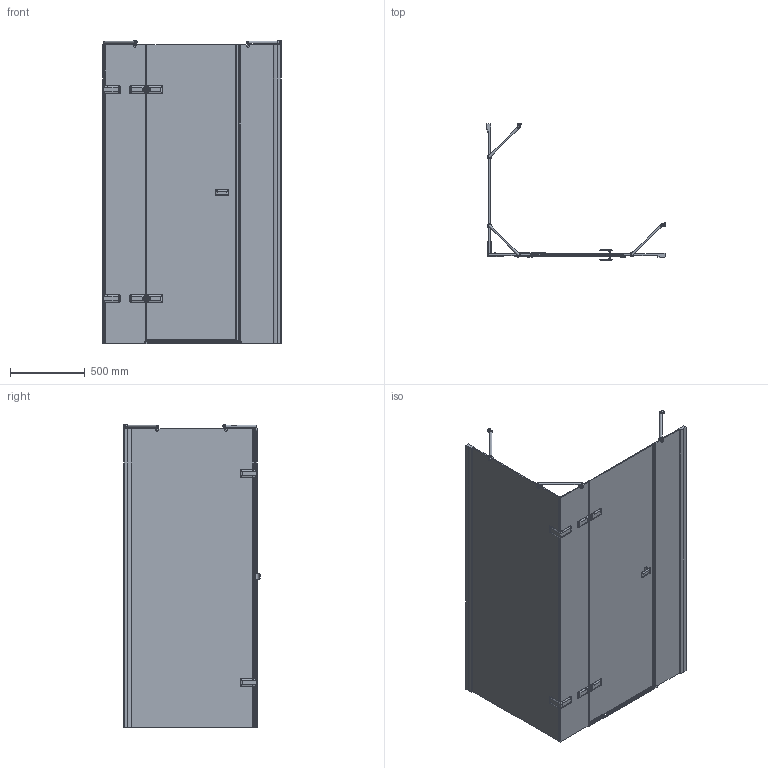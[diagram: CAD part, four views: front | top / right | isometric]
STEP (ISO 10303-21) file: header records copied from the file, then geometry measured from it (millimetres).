
FILE_DESCRIPTION(/* description */ (''),/* implementation_level */ '2;1');
FILE_NAME(/* name */ 'E:\Работа\Сергей\Душевые кабинки\! Работа\98\TREND RECTAN GK-864BP\TREND RECTAN GK-864BP левая модель\TREND RECTAN GK-864BP ЛЕВАЯ-3D.stp',/* time_stamp */ '2018-06-03T17:37:59+03:00',/* author */ ('PC'),/* organization */ (''),/* preprocessor_version */ 'ST-DEVELOPER v15.2',/* originating_system */ 'Autodesk Inventor 2014',/* authorisation */ '');
FILE_SCHEMA (('AUTOMOTIVE_DESIGN { 1 0 10303 214 3 1 1 }'));
Products named in the file (1): TREND RECTAN GK-864BP ЛЕВАЯ-3D
Bounding box: 1193.94 x 912.64 x 2031.5 mm (x, y, z)
Volume: 34490000.2 mm3; surface area: 8821051.3 mm2
Topology: 10 solids, 10 shells, 1509 faces, 3978 edges, 2461 vertices
Faces by surface type: plane 886, cylinder 375, bspline 164, torus 44, sphere 22, cone 18
Full cylindrical faces by diameter (mm): 6 x2, 9 x8, 12 x4, 13 x2, 15 x3, 20 x6, 26 x2
Entity records: 64733 total; most frequent: CARTESIAN_POINT 27309, ORIENTED_EDGE 7642, DIRECTION 7190, EDGE_CURVE 3821, AXIS2_PLACEMENT_3D 2416, VERTEX_POINT 2415, LINE 2358, VECTOR 2358
